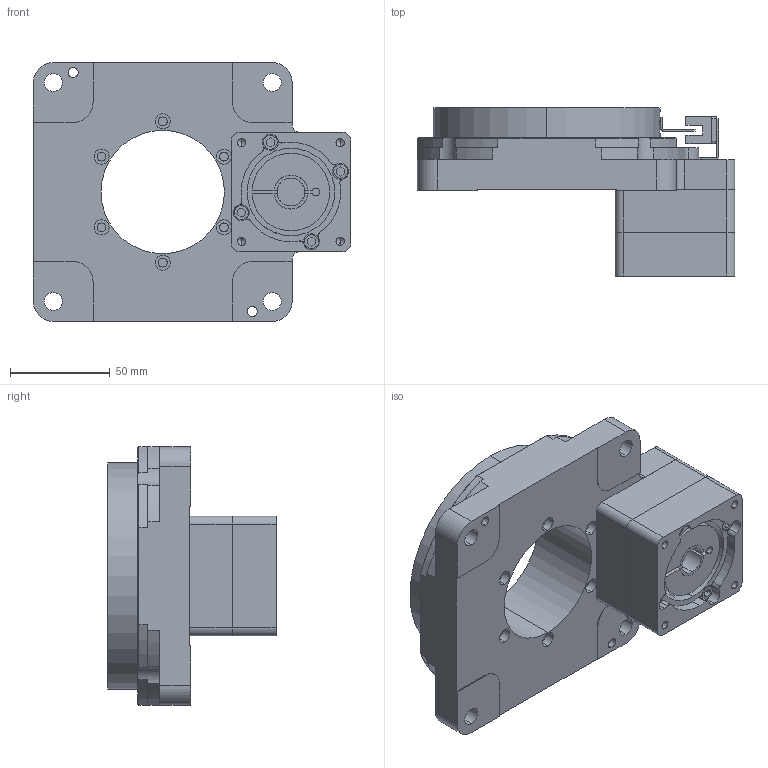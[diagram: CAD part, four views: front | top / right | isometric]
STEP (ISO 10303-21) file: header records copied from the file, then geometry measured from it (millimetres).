
FILE_DESCRIPTION(('Open CASCADE Model'),'2;1');
FILE_NAME('Open CASCADE Shape Model','2026-10-11T02:42:07',('Author'),( 'Open CASCADE'),'Open CASCADE STEP processor 7.8','Open CASCADE 7.8' ,'Unknown');
FILE_SCHEMA(('AUTOMOTIVE_DESIGN { 1 0 10303 214 1 1 1 1 }'));
Length unit declared in the file: millimetre
Products named in the file (3): NT130-10(配伺服400W 输入14-32 50-5 4-M5-70); NT130-10(配伺服400W 输入14-32 50-5 4-M5-70)-01; NT130-10(配伺服400W 输入14-32 50-5 4-M5-70)-02
Assembly tree (2 placements, depth 2):
  NT130-10(配伺服400W 输入14-32 50-5 4-M5-70)
    NT130-10(配伺服400W 输入14-32 50-5 4-M5-70)-01
    NT130-10(配伺服400W 输入14-32 50-5 4-M5-70)-02
Bounding box: 159.4 x 84.5 x 130 mm (x, y, z)
Volume: 589219 mm3; surface area: 100098.1 mm2
Topology: 6 solids, 6 shells, 1064 faces, 2916 edges, 1910 vertices
Faces by surface type: plane 801, cylinder 219, cone 44
Entity records: 71456 total; most frequent: CARTESIAN_POINT 15711, DIRECTION 9706, LINE 6498, VECTOR 6498, ORIENTED_EDGE 5760, PCURVE 5760, DEFINITIONAL_REPRESENTATION 5760, EDGE_CURVE 2880
